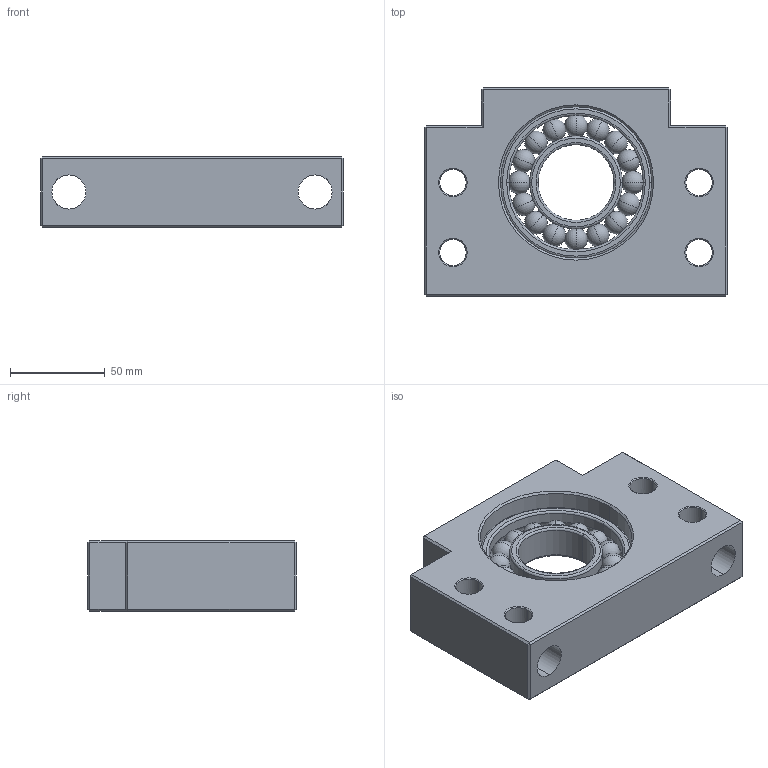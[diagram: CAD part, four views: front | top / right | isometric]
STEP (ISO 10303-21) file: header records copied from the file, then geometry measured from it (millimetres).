
FILE_DESCRIPTION (( 'STEP AP203' ), '1' );
FILE_NAME ('BF40²Õ¦X¥ó.STEP', '2017-12-27T08:18:06', ( '' ), ( '' ), 'SwSTEP 2.0', 'SolidWorks 2017', '' );
FILE_SCHEMA (( 'CONFIG_CONTROL_DESIGN' ));
Length unit declared in the file: millimetre
Products named in the file (1): BF40組合件
Bounding box: 160 x 110 x 37 mm (x, y, z)
Surface area: 81742.3 mm2 (no closed solid volume)
Topology: 0 solids, 19 shells, 164 faces, 422 edges, 258 vertices
Faces by surface type: plane 50, cylinder 36, sphere 32, cone 24, torus 22
Entity records: 5109 total; most frequent: CARTESIAN_POINT 1469, DIRECTION 796, ORIENTED_EDGE 680, EDGE_CURVE 342, AXIS2_PLACEMENT_3D 321, VERTEX_POINT 210, EDGE_LOOP 184, FACE_OUTER_BOUND 164
